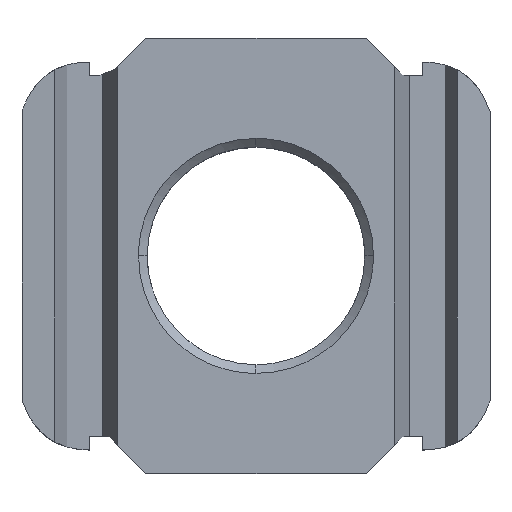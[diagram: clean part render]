
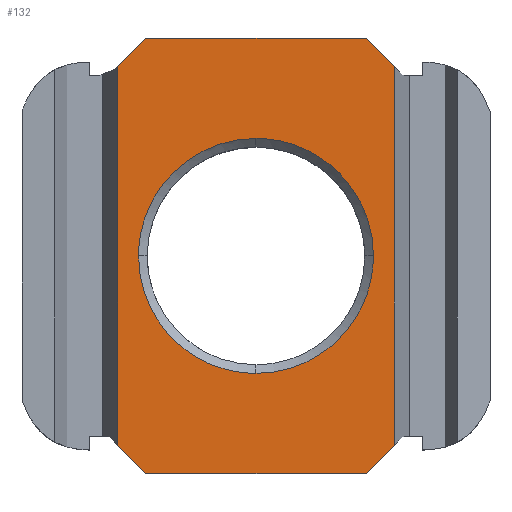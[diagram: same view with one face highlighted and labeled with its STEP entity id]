
A CAD part, top view. The second image highlights one B-rep face of the part: STEP entity #132.
In plain terms, the highlighted planar face has unit normal (0, 0, 1).
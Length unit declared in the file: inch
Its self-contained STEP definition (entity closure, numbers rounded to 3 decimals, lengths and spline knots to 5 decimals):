
#132=ADVANCED_FACE('',(#265,#266),#267,.T.);
#265=FACE_OUTER_BOUND('',#586,.T.);
#266=FACE_BOUND('',#587,.T.);
#267=PLANE('',#588);
#586=EDGE_LOOP('',(#1065,#1066,#1067,#1068,#1069,#1070,#1071,#1072));
#587=EDGE_LOOP('',(#1073,#1074,#1075,#1076));
#588=AXIS2_PLACEMENT_3D('',#1077,#1078,#1079);
#1065=ORIENTED_EDGE('',*,*,#1236,.T.);
#1066=ORIENTED_EDGE('',*,*,#1272,.F.);
#1067=ORIENTED_EDGE('',*,*,#1149,.T.);
#1068=ORIENTED_EDGE('',*,*,#1285,.F.);
#1069=ORIENTED_EDGE('',*,*,#1257,.T.);
#1070=ORIENTED_EDGE('',*,*,#1230,.T.);
#1071=ORIENTED_EDGE('',*,*,#1169,.T.);
#1072=ORIENTED_EDGE('',*,*,#1283,.T.);
#1073=ORIENTED_EDGE('',*,*,#1255,.F.);
#1074=ORIENTED_EDGE('',*,*,#1286,.F.);
#1075=ORIENTED_EDGE('',*,*,#1287,.F.);
#1076=ORIENTED_EDGE('',*,*,#1241,.F.);
#1077=CARTESIAN_POINT('',(0.31661,1.25,0.375));
#1078=DIRECTION('',(0.0,0.0,1.0));
#1079=DIRECTION('',(-1.0,0.0,-0.0));
#1149=EDGE_CURVE('',#1301,#1307,#1309,.T.);
#1169=EDGE_CURVE('',#1346,#1344,#1347,.T.);
#1230=EDGE_CURVE('',#1443,#1346,#1444,.T.);
#1236=EDGE_CURVE('',#1453,#1450,#1454,.T.);
#1241=EDGE_CURVE('',#1458,#1460,#1461,.T.);
#1255=EDGE_CURVE('',#1478,#1458,#1480,.T.);
#1257=EDGE_CURVE('',#1482,#1443,#1483,.T.);
#1272=EDGE_CURVE('',#1301,#1450,#1500,.T.);
#1283=EDGE_CURVE('',#1344,#1453,#1511,.T.);
#1285=EDGE_CURVE('',#1482,#1307,#1513,.T.);
#1286=EDGE_CURVE('',#1514,#1478,#1515,.T.);
#1287=EDGE_CURVE('',#1460,#1514,#1516,.T.);
#1301=VERTEX_POINT('',#1530);
#1307=VERTEX_POINT('',#1539);
#1309=LINE('',#1542,#1543);
#1344=VERTEX_POINT('',#1623);
#1346=VERTEX_POINT('',#1626);
#1347=LINE('',#1627,#1628);
#1443=VERTEX_POINT('',#1811);
#1444=LINE('',#1812,#1813);
#1450=VERTEX_POINT('',#1822);
#1453=VERTEX_POINT('',#1826);
#1454=LINE('',#1827,#1828);
#1458=VERTEX_POINT('',#1834);
#1460=VERTEX_POINT('',#1837);
#1461=B_SPLINE_CURVE_WITH_KNOTS('',3,(#1838,#1839,#1840,#1841,#1842,#1843,#1844,#1845,#1846,#1847,#1848,#1849,#1850,#1851),.UNSPECIFIED.,.F.,.F.,(4,2,2,2,2,2,4),(0.0,0.00458,0.13763,0.26345,0.26958,0.39793,0.52689),.UNSPECIFIED.);
#1478=VERTEX_POINT('',#1888);
#1480=B_SPLINE_CURVE_WITH_KNOTS('',3,(#1891,#1892,#1893,#1894,#1895,#1896,#1897,#1898,#1899,#1900,#1901,#1902,#1903,#1904),.UNSPECIFIED.,.F.,.F.,(4,2,2,2,2,2,4),(0.0,0.07016,0.13827,0.26377,0.27021,0.39856,0.52753),.UNSPECIFIED.);
#1482=VERTEX_POINT('',#1906);
#1483=LINE('',#1907,#1908);
#1500=LINE('',#1951,#1952);
#1511=LINE('',#1982,#1983);
#1513=LINE('',#1985,#1986);
#1514=VERTEX_POINT('',#1987);
#1515=B_SPLINE_CURVE_WITH_KNOTS('',3,(#1988,#1989,#1990,#1991,#1992,#1993,#1994,#1995,#1996,#1997,#1998,#1999,#2000,#2001),.UNSPECIFIED.,.F.,.F.,(4,2,2,2,2,2,4),(0.0,0.12897,0.25732,0.26345,0.38927,0.52231,0.52689),.UNSPECIFIED.);
#1516=B_SPLINE_CURVE_WITH_KNOTS('',3,(#2002,#2003,#2004,#2005,#2006,#2007,#2008,#2009,#2010,#2011,#2012,#2013),.UNSPECIFIED.,.F.,.F.,(4,2,2,2,2,4),(0.0,0.13135,0.2634,0.26341,0.39546,0.52681),.UNSPECIFIED.);
#1530=CARTESIAN_POINT('',(0.71396,1.16914,0.375));
#1539=CARTESIAN_POINT('',(0.6331,1.25,0.375));
#1542=CARTESIAN_POINT('',(0.58045,1.30265,0.375));
#1543=VECTOR('',#2034,1.0);
#1623=CARTESIAN_POINT('',(0.0,0.0,0.375));
#1626=CARTESIAN_POINT('',(-0.08074,0.08074,0.375));
#1627=CARTESIAN_POINT('',(-0.25976,0.25976,0.375));
#1628=VECTOR('',#2041,1.0);
#1811=CARTESIAN_POINT('',(-0.08074,1.16914,0.375));
#1812=CARTESIAN_POINT('',(-0.08074,1.25,0.375));
#1813=VECTOR('',#2081,1.0);
#1822=CARTESIAN_POINT('',(0.71396,0.08074,0.375));
#1826=CARTESIAN_POINT('',(0.63322,0.0,0.375));
#1827=CARTESIAN_POINT('',(0.89298,0.25976,0.375));
#1828=VECTOR('',#2086,1.0);
#1834=CARTESIAN_POINT('',(-0.02089,0.62493,0.375));
#1837=CARTESIAN_POINT('',(0.31661,0.28743,0.375));
#1838=CARTESIAN_POINT('',(-0.02089,0.62493,0.375));
#1839=CARTESIAN_POINT('',(-0.02089,0.6234,0.375));
#1840=CARTESIAN_POINT('',(-0.02088,0.62188,0.375));
#1841=CARTESIAN_POINT('',(-0.02027,0.576,0.375));
#1842=CARTESIAN_POINT('',(-0.01066,0.53092,0.375));
#1843=CARTESIAN_POINT('',(0.02381,0.45181,0.375));
#1844=CARTESIAN_POINT('',(0.0483,0.41593,0.375));
#1845=CARTESIAN_POINT('',(0.07946,0.38479,0.375));
#1846=CARTESIAN_POINT('',(0.08092,0.38335,0.375));
#1847=CARTESIAN_POINT('',(0.1132,0.35224,0.375));
#1848=CARTESIAN_POINT('',(0.15035,0.32804,0.375));
#1849=CARTESIAN_POINT('',(0.22985,0.29585,0.375));
#1850=CARTESIAN_POINT('',(0.27362,0.28743,0.375));
#1851=CARTESIAN_POINT('',(0.31661,0.28743,0.375));
#1888=CARTESIAN_POINT('',(0.31661,0.96243,0.375));
#1891=CARTESIAN_POINT('',(0.31661,0.96243,0.375));
#1892=CARTESIAN_POINT('',(0.29322,0.96243,0.375));
#1893=CARTESIAN_POINT('',(0.26971,0.96002,0.375));
#1894=CARTESIAN_POINT('',(0.22461,0.95053,0.375));
#1895=CARTESIAN_POINT('',(0.20276,0.94355,0.375));
#1896=CARTESIAN_POINT('',(0.14359,0.91778,0.375));
#1897=CARTESIAN_POINT('',(0.10779,0.89337,0.375));
#1898=CARTESIAN_POINT('',(0.07661,0.86224,0.375));
#1899=CARTESIAN_POINT('',(0.07511,0.8607,0.375));
#1900=CARTESIAN_POINT('',(0.04392,0.82836,0.375));
#1901=CARTESIAN_POINT('',(0.01973,0.7912,0.375));
#1902=CARTESIAN_POINT('',(-0.01247,0.7117,0.375));
#1903=CARTESIAN_POINT('',(-0.02089,0.66792,0.375));
#1904=CARTESIAN_POINT('',(-0.02089,0.62493,0.375));
#1906=CARTESIAN_POINT('',(0.00012,1.25,0.375));
#1907=CARTESIAN_POINT('',(0.05277,1.30265,0.375));
#1908=VECTOR('',#2098,1.0);
#1951=CARTESIAN_POINT('',(0.71396,1.25,0.375));
#1952=VECTOR('',#2105,1.0);
#1982=CARTESIAN_POINT('',(-0.08074,0.0,0.375));
#1983=VECTOR('',#2107,1.0);
#1985=CARTESIAN_POINT('',(-0.08074,1.25,0.375));
#1986=VECTOR('',#2108,1.0);
#1987=CARTESIAN_POINT('',(0.65411,0.62493,0.375));
#1988=CARTESIAN_POINT('',(0.65411,0.62493,0.375));
#1989=CARTESIAN_POINT('',(0.65411,0.66792,0.375));
#1990=CARTESIAN_POINT('',(0.64569,0.7117,0.375));
#1991=CARTESIAN_POINT('',(0.61349,0.7912,0.375));
#1992=CARTESIAN_POINT('',(0.5893,0.82836,0.375));
#1993=CARTESIAN_POINT('',(0.55819,0.86063,0.375));
#1994=CARTESIAN_POINT('',(0.55675,0.86209,0.375));
#1995=CARTESIAN_POINT('',(0.52561,0.89325,0.375));
#1996=CARTESIAN_POINT('',(0.48973,0.91774,0.375));
#1997=CARTESIAN_POINT('',(0.41062,0.9522,0.375));
#1998=CARTESIAN_POINT('',(0.36554,0.96181,0.375));
#1999=CARTESIAN_POINT('',(0.31966,0.96242,0.375));
#2000=CARTESIAN_POINT('',(0.31814,0.96243,0.375));
#2001=CARTESIAN_POINT('',(0.31661,0.96243,0.375));
#2002=CARTESIAN_POINT('',(0.31661,0.28743,0.375));
#2003=CARTESIAN_POINT('',(0.36039,0.28743,0.375));
#2004=CARTESIAN_POINT('',(0.405,0.29618,0.375));
#2005=CARTESIAN_POINT('',(0.48614,0.32973,0.375));
#2006=CARTESIAN_POINT('',(0.52413,0.35516,0.375));
#2007=CARTESIAN_POINT('',(0.55526,0.38628,0.375));
#2008=CARTESIAN_POINT('',(0.55526,0.38629,0.375));
#2009=CARTESIAN_POINT('',(0.58639,0.41741,0.375));
#2010=CARTESIAN_POINT('',(0.61182,0.4554,0.375));
#2011=CARTESIAN_POINT('',(0.64536,0.53654,0.375));
#2012=CARTESIAN_POINT('',(0.65411,0.58115,0.375));
#2013=CARTESIAN_POINT('',(0.65411,0.62493,0.375));
#2034=DIRECTION('',(-0.707,0.707,0.0));
#2041=DIRECTION('',(0.707,-0.707,0.0));
#2081=DIRECTION('',(0.0,-1.0,0.0));
#2086=DIRECTION('',(0.707,0.707,0.0));
#2098=DIRECTION('',(-0.707,-0.707,0.0));
#2105=DIRECTION('',(0.0,-1.0,0.0));
#2107=DIRECTION('',(1.0,0.0,0.0));
#2108=DIRECTION('',(1.0,0.0,0.0));
